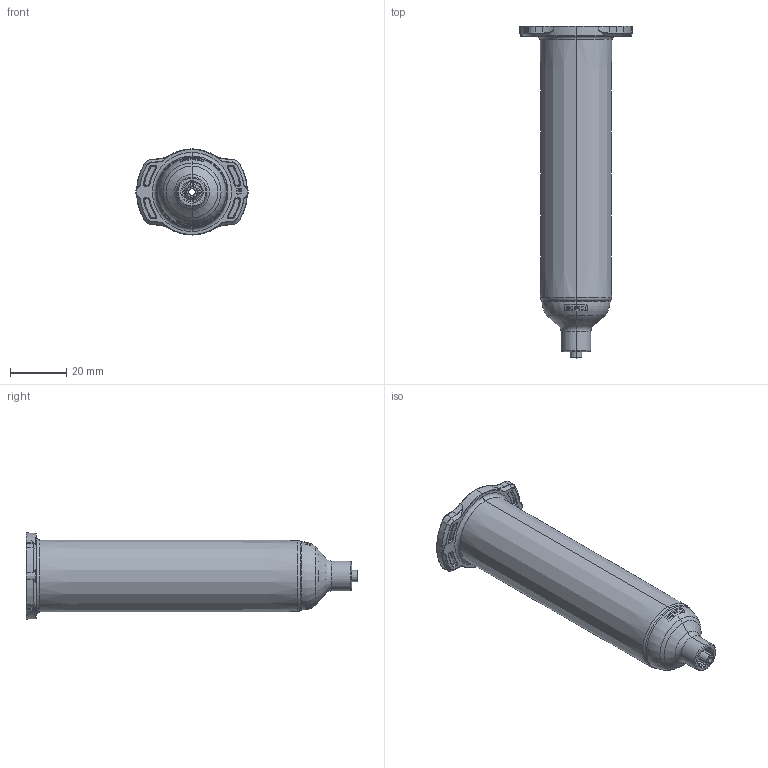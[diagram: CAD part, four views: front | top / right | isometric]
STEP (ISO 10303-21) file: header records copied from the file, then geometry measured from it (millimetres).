
FILE_DESCRIPTION (( 'STEP AP214' ), '1' );
FILE_NAME ('NORDSONEFD-7012004 BARREL O 30CC CL.STEP', '2018-12-18T20:08:54', ( '' ), ( '' ), 'SwSTEP 2.0', 'SolidWorks 2018', '' );
FILE_SCHEMA (( 'AUTOMOTIVE_DESIGN' ));
Length unit declared in the file: inch
Products named in the file (1): NORDSONEFD-7012004 BARREL O 30CC CL
Bounding box: 39.87 x 117.88 x 30.58 mm (x, y, z)
Volume: 13116.6 mm3; surface area: 17882.2 mm2
Topology: 1 solids, 1 shells, 591 faces, 1493 edges, 923 vertices
Faces by surface type: bspline 263, plane 157, torus 82, cylinder 54, cone 35
Entity records: 25336 total; most frequent: CARTESIAN_POINT 13303, ORIENTED_EDGE 2978, DIRECTION 1736, EDGE_CURVE 1489, VERTEX_POINT 923, B_SPLINE_CURVE_WITH_KNOTS 694, AXIS2_PLACEMENT_3D 638, EDGE_LOOP 616
